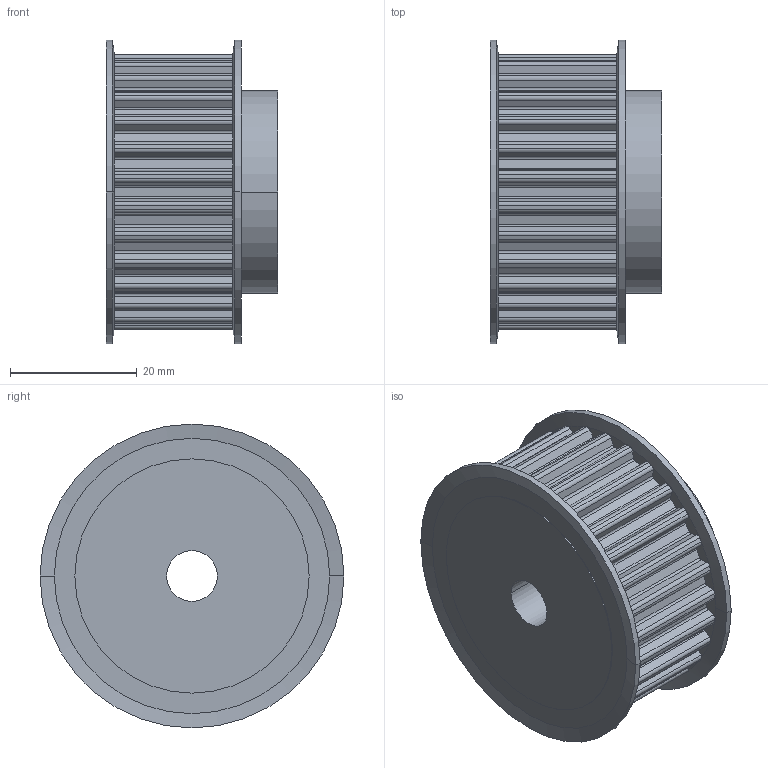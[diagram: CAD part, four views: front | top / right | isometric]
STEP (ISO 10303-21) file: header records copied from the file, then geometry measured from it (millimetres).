
FILE_DESCRIPTION( ( '' ), '1' );
FILE_NAME( 'C:/Users/Stangenbergd/Documents/CAD_Step/1/16232800.stp', '2021-10-19T08:44:11', ( '' ), ( '' ), ' ', ' ', ' ' );
FILE_SCHEMA( ( 'CONFIG_CONTROL_DESIGN' ) );
Length unit declared in the file: millimetre
Products named in the file (1): 1
Bounding box: 27.17 x 48 x 48 mm (x, y, z)
Volume: 32780.6 mm3; surface area: 9803 mm2
Topology: 1 solids, 1 shells, 361 faces, 948 edges, 592 vertices
Faces by surface type: plane 201, cylinder 152, cone 8
Entity records: 11306 total; most frequent: DIRECTION 2208, CARTESIAN_POINT 1902, ORIENTED_EDGE 1896, EDGE_CURVE 948, AXIS2_PLACEMENT_3D 898, VERTEX_POINT 592, CIRCLE 536, LINE 412
